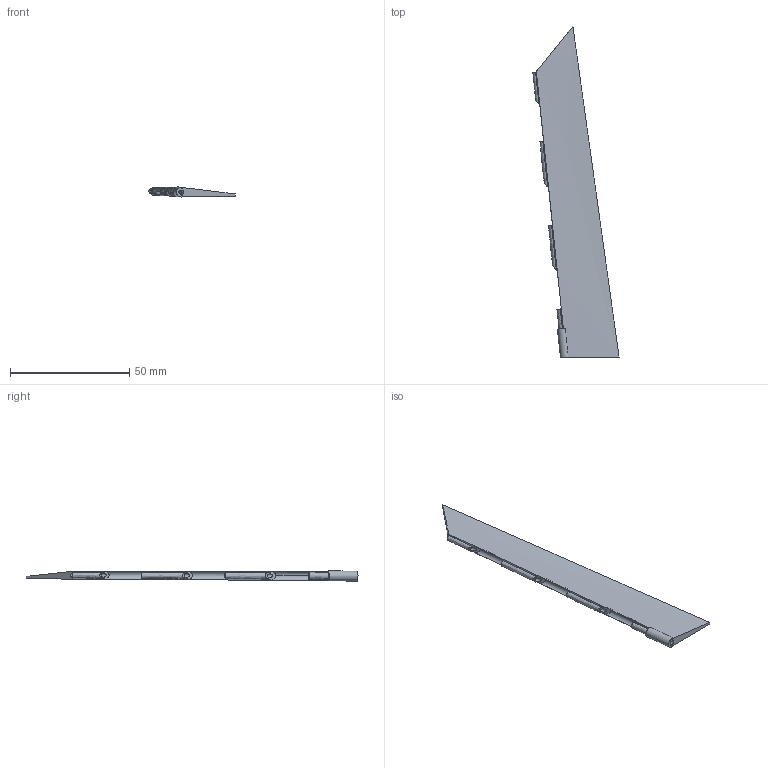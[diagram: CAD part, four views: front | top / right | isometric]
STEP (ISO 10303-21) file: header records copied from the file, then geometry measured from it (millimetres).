
FILE_DESCRIPTION(('Open CASCADE Model'),'2;1');
FILE_NAME('Open CASCADE Shape Model','2026-10-04T21:26:22',('Author'),( 'Open CASCADE'),'Open CASCADE STEP processor 7.9','Open CASCADE 7.9' ,'Unknown');
FILE_SCHEMA(('AUTOMOTIVE_DESIGN { 1 0 10303 214 1 1 1 1 }'));
Length unit declared in the file: millimetre
Products named in the file (1): Open CASCADE STEP translator 7.9 18
Bounding box: 36.2 x 139.38 x 4.23 mm (x, y, z)
Volume: 5198.2 mm3; surface area: 6445 mm2
Topology: 1 solids, 1 shells, 43 faces, 127 edges, 85 vertices
Faces by surface type: bspline 17, plane 15, cylinder 10, cone 1
Full cylindrical faces by diameter (mm): 1.6 x4
Entity records: 8038 total; most frequent: CARTESIAN_POINT 5998, ORIENTED_EDGE 254, B_SPLINE_CURVE_WITH_KNOTS 254, PCURVE 254, DEFINITIONAL_REPRESENTATION 254, DIRECTION 212, EDGE_CURVE 127, SURFACE_CURVE 122
